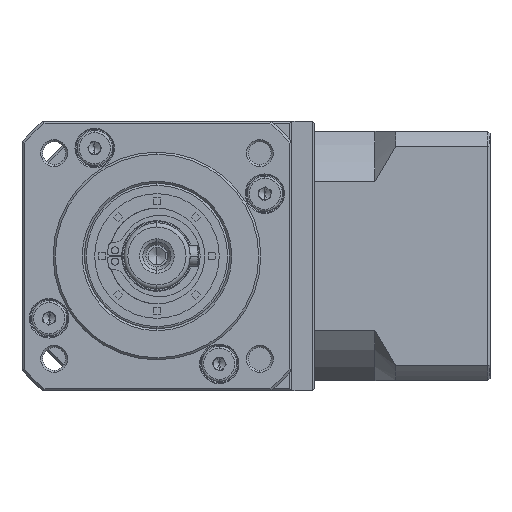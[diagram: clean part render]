
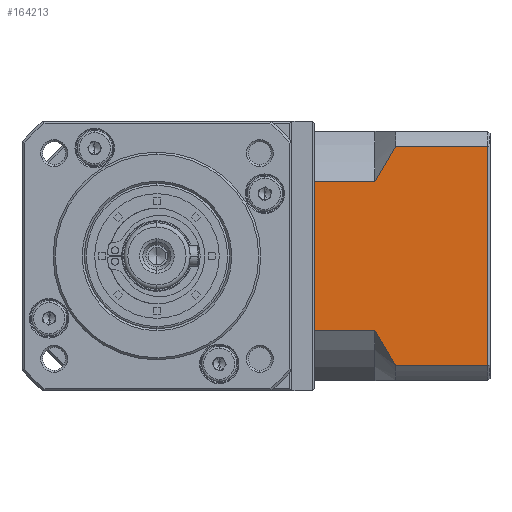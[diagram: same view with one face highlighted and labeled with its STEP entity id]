
A CAD part, left-side view. The second image highlights one B-rep face of the part: STEP entity #164213.
In plain terms, the highlighted planar face has unit normal (-1, 0, 0).
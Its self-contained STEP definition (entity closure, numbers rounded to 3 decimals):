
#263 = CARTESIAN_POINT ( 'NONE',  ( -27.429, -66.234, -144.01 ) ) ;
#829 = CARTESIAN_POINT ( 'NONE',  ( -27.429, -51.734, -135.581 ) ) ;
#1819 = LINE ( 'NONE', #82634, #164888 ) ;
#3034 = CARTESIAN_POINT ( 'NONE',  ( -27.429, -69.461, -93.834 ) ) ;
#5517 = PLANE ( 'NONE',  #132040 ) ;
#6178 = DIRECTION ( 'NONE',  ( 0., 0., -1. ) ) ;
#8678 = EDGE_CURVE ( 'NONE', #86515, #75032, #101024, .T. ) ;
#13242 = LINE ( 'NONE', #134564, #47417 ) ;
#23433 = ORIENTED_EDGE ( 'NONE', *, *, #91874, .F. ) ;
#24648 = CARTESIAN_POINT ( 'NONE',  ( -27.429, -66.234, -135.581 ) ) ;
#24856 = LINE ( 'NONE', #24648, #59060 ) ;
#36167 = CARTESIAN_POINT ( 'NONE',  ( -27.429, -66.234, -99.525 ) ) ;
#39919 = FACE_OUTER_BOUND ( 'NONE', #69567, .T. ) ;
#41987 = CARTESIAN_POINT ( 'NONE',  ( -27.429, -66.234, -135.581 ) ) ;
#42211 = EDGE_CURVE ( 'NONE', #60465, #79929, #1819, .T. ) ;
#46002 = CARTESIAN_POINT ( 'NONE',  ( -27.429, -66.234, -91.095 ) ) ;
#47417 = VECTOR ( 'NONE', #6178, 1000. ) ;
#50257 = CARTESIAN_POINT ( 'NONE',  ( -27.429, -66.234, -99.525 ) ) ;
#50379 = VECTOR ( 'NONE', #58951, 1000. ) ;
#57264 = CARTESIAN_POINT ( 'NONE',  ( -27.429, -93.934, -147.553 ) ) ;
#58951 = DIRECTION ( 'NONE',  ( 0., -1., 0. ) ) ;
#59060 = VECTOR ( 'NONE', #101861, 1000. ) ;
#60465 = VERTEX_POINT ( 'NONE', #62285 ) ;
#61453 = VECTOR ( 'NONE', #103431, 1000. ) ;
#61671 = ORIENTED_EDGE ( 'NONE', *, *, #163967, .T. ) ;
#62285 = CARTESIAN_POINT ( 'NONE',  ( -27.429, -93.434, -144.01 ) ) ;
#62690 = EDGE_CURVE ( 'NONE', #77802, #88623, #83195, .T. ) ;
#67535 = ORIENTED_EDGE ( 'NONE', *, *, #68138, .F. ) ;
#68138 = EDGE_CURVE ( 'NONE', #60465, #75032, #95839, .T. ) ;
#68395 = LINE ( 'NONE', #36167, #114849 ) ;
#69567 = EDGE_LOOP ( 'NONE', ( #67535, #71518, #150180, #106096, #23433, #61671, #106250, #130368 ) ) ;
#70003 = CARTESIAN_POINT ( 'NONE',  ( -27.429, -67.785, -96.642 ) ) ;
#70223 = DIRECTION ( 'NONE',  ( 0., 1., 0. ) ) ;
#71518 = ORIENTED_EDGE ( 'NONE', *, *, #42211, .T. ) ;
#75032 = VERTEX_POINT ( 'NONE', #96727 ) ;
#77471 = VERTEX_POINT ( 'NONE', #106165 ) ;
#77802 = VERTEX_POINT ( 'NONE', #89063 ) ;
#79929 = VERTEX_POINT ( 'NONE', #119158 ) ;
#82634 = CARTESIAN_POINT ( 'NONE',  ( -27.429, -93.434, -147.553 ) ) ;
#82967 = CARTESIAN_POINT ( 'NONE',  ( -27.429, -66.234, -99.525 ) ) ;
#83195 = B_SPLINE_CURVE_WITH_KNOTS ( 'NONE', 3,
 ( #147137, #121289, #3034, #70003, #160054, #82967 ),
 .UNSPECIFIED., .F., .F.,
 ( 4, 2, 4 ),
 ( 0.052, 0.057, 0.062 ),
 .UNSPECIFIED. ) ;
#86369 = EDGE_CURVE ( 'NONE', #86515, #93039, #24856, .T. ) ;
#86515 = VERTEX_POINT ( 'NONE', #41987 ) ;
#87448 = DIRECTION ( 'NONE',  ( 0., -1., 0. ) ) ;
#88623 = VERTEX_POINT ( 'NONE', #50257 ) ;
#89063 = CARTESIAN_POINT ( 'NONE',  ( -27.429, -71.234, -91.095 ) ) ;
#91874 = EDGE_CURVE ( 'NONE', #77471, #88623, #68395, .T. ) ;
#92793 = CARTESIAN_POINT ( 'NONE',  ( -27.429, -71.234, -144.01 ) ) ;
#92951 = CARTESIAN_POINT ( 'NONE',  ( -27.429, -70.332, -142.648 ) ) ;
#93039 = VERTEX_POINT ( 'NONE', #829 ) ;
#93165 = CARTESIAN_POINT ( 'NONE',  ( -27.429, -69.458, -141.268 ) ) ;
#93194 = CARTESIAN_POINT ( 'NONE',  ( -27.429, -66.234, -135.581 ) ) ;
#93313 = CARTESIAN_POINT ( 'NONE',  ( -27.429, -66.984, -137.037 ) ) ;
#93355 = CARTESIAN_POINT ( 'NONE',  ( -27.429, -67.784, -138.463 ) ) ;
#95682 = DIRECTION ( 'NONE',  ( 0., 0., 1. ) ) ;
#95839 = LINE ( 'NONE', #263, #61453 ) ;
#96727 = CARTESIAN_POINT ( 'NONE',  ( -27.429, -71.234, -144.01 ) ) ;
#101024 = B_SPLINE_CURVE_WITH_KNOTS ( 'NONE', 3,
 ( #93194, #93313, #93355, #93165, #92951, #92793 ),
 .UNSPECIFIED., .F., .F.,
 ( 4, 2, 4 ),
 ( 0.1, 0.104, 0.109 ),
 .UNSPECIFIED. ) ;
#101861 = DIRECTION ( 'NONE',  ( 0., 1., 0. ) ) ;
#103431 = DIRECTION ( 'NONE',  ( 0., 1., 0. ) ) ;
#106096 = ORIENTED_EDGE ( 'NONE', *, *, #62690, .T. ) ;
#106165 = CARTESIAN_POINT ( 'NONE',  ( -27.429, -51.734, -99.525 ) ) ;
#106250 = ORIENTED_EDGE ( 'NONE', *, *, #86369, .F. ) ;
#114849 = VECTOR ( 'NONE', #87448, 1000. ) ;
#118994 = LINE ( 'NONE', #46002, #50379 ) ;
#119158 = CARTESIAN_POINT ( 'NONE',  ( -27.429, -93.434, -91.095 ) ) ;
#121289 = CARTESIAN_POINT ( 'NONE',  ( -27.429, -70.334, -92.455 ) ) ;
#130368 = ORIENTED_EDGE ( 'NONE', *, *, #8678, .T. ) ;
#132040 = AXIS2_PLACEMENT_3D ( 'NONE', #57264, #147358, #70223 ) ;
#134564 = CARTESIAN_POINT ( 'NONE',  ( -27.429, -51.734, -147.553 ) ) ;
#147137 = CARTESIAN_POINT ( 'NONE',  ( -27.429, -71.234, -91.095 ) ) ;
#147358 = DIRECTION ( 'NONE',  ( 1., 0., 0. ) ) ;
#148957 = EDGE_CURVE ( 'NONE', #77802, #79929, #118994, .T. ) ;
#150180 = ORIENTED_EDGE ( 'NONE', *, *, #148957, .F. ) ;
#160054 = CARTESIAN_POINT ( 'NONE',  ( -27.429, -66.982, -98.073 ) ) ;
#163967 = EDGE_CURVE ( 'NONE', #77471, #93039, #13242, .T. ) ;
#164213 = ADVANCED_FACE ( 'NONE', ( #39919 ), #5517, .F. ) ;
#164888 = VECTOR ( 'NONE', #95682, 1000. ) ;
